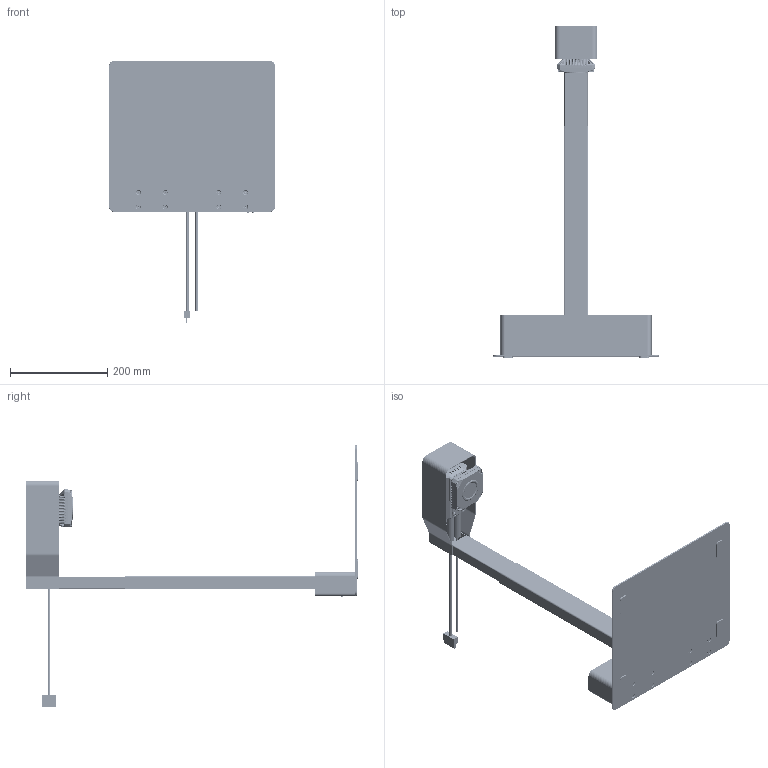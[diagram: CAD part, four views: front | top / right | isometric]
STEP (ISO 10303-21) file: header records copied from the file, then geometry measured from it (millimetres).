
FILE_DESCRIPTION((''),'2;1');
FILE_NAME('000-MED-CODEREADER-ID5000_ASM','2024-12-04T20:21:23',('lizhoupeng'),(''),'CREO PARAMETRIC BY PTC INC, 2020044','CREO PARAMETRIC BY PTC INC, 2020044','');
FILE_SCHEMA(('AUTOMOTIVE_DESIGN { 1 0 10303 214 1 1 1 1 }'));
Products named in the file (52): DE-11-099574; DE-17-003865; DE-20-032934_ASM; DE-11-099576; 8002_TP4-2-9; 8002-CLS-M3-0; 8002-BSOS-M3-6; DE-11-099576_ASM; DE-11-099577; DE-11-099577_ASM; DE-11-099578; 8002-NUT-M4-SUS-GB-T13681; DE-11-099578_ASM; DE-11-103076; DE-11-099580; DE-20-034354_ASM; DE-11-103080; DE-11-103081; DE-11-103082; DE-11-103079_ASM; DE-11-103077; 8002-BSOS-M3-10; 8002-BSO-3_5M3-20; 8002_BSO4-M3-15; DE-11-103077_ASM; DE-11-103078; 8002-CLS-M3-2; DE-11-103078_ASM; DE-11-099586; DE-11-099587; DE-11-099587_ASM; DE-11-099585_ASM; DE-11-099584_ASM; ID5060-MODEL; MV-23518-PCB; 101300118; 101300037; 101303247; 101301808; 100601044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
Assembly tree (101 placements, depth 5):
  000-MED-CODEREADER-ID5000_ASM
    DE-20-032934_ASM
      DE-11-099574
      DE-17-003865  x4
    DE-20-034354_ASM
      DE-11-099576_ASM
        DE-11-099576
        8002_TP4-2-9  x2
        8002-CLS-M3-0  x4
        8002-BSOS-M3-6  x4
      DE-11-099577_ASM
        DE-11-099577
        8002-CLS-M3-0  x2
      DE-11-099578_ASM
        DE-11-099578
        8002-NUT-M4-SUS-GB-T13681  x8
        8002-CLS-M3-0
      DE-11-103076
      DE-11-099580
    DE-11-103079_ASM
      DE-11-103080
      DE-11-103081
      DE-11-103082
      8002-BSOS-M3-6  x4
    DE-11-103077_ASM
      DE-11-103077
      8002-BSOS-M3-10  x2
      8002-BSO-3_5M3-20  x2
      8002_BSO4-M3-15
    DE-11-103078_ASM
      DE-11-103078
      8002-CLS-M3-2  x4
    DE-11-099584_ASM
      DE-11-099585_ASM
        DE-11-099586
        DE-11-099587_ASM
          DE-11-099587
          8002-BSOS-M3-6  x4
    ID5060-MODEL
    PCBA-ALL-MEDICAL_ASM
      MV-23518-PCBA_ASM
        MV-23518-PCB
        101300118
        101300037
        101303247
        101301808
        100601044
        101400471  x2
        101305980
        101301528
        101301537
    SC-HSCM3X20B-GB70_1  x3
    SC-PSF0M3X6-NI  x4
    193100150  x2
    SC-PSFM4X8  x4
    SC-KM4X10-H-B-GB70_3  x8
Bounding box: 340 x 681 x 538.3 mm (x, y, z)
Volume: 863805.2 mm3; surface area: 1014210.1 mm2
Topology: 92 solids, 232 shells, 18807 faces, 53863 edges, 36042 vertices
Faces by surface type: plane 10529, cylinder 5826, bspline 897, cone 690, torus 633, sphere 138, extrusion 92, revolution 2
Entity records: 786205 total; most frequent: CARTESIAN_POINT 224420, ORIENTED_EDGE 96422, DIRECTION 91864, EDGE_CURVE 49224, VECTOR 34270, LINE 34178, VERTEX_POINT 31412, AXIS2_PLACEMENT_3D 28796
